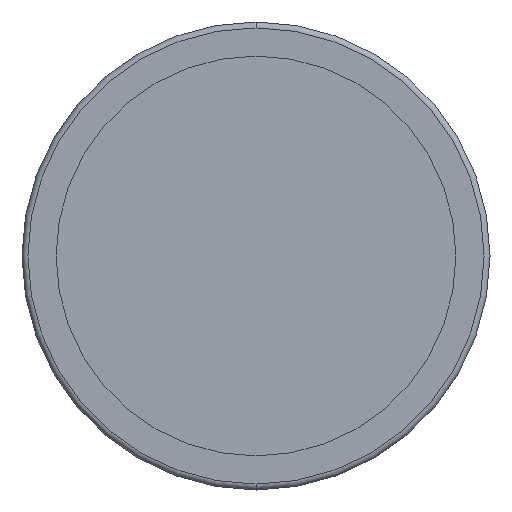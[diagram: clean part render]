
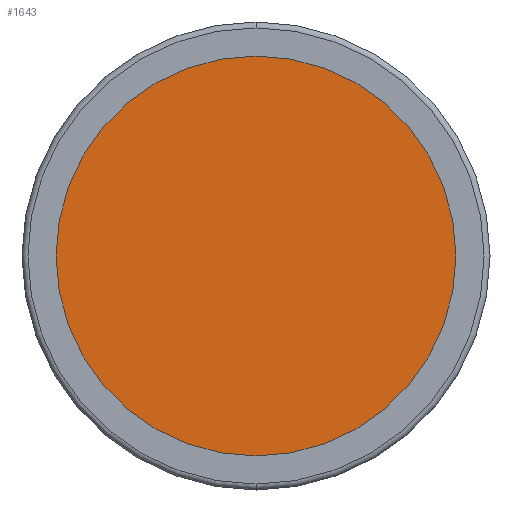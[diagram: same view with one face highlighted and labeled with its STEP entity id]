
A CAD part, front view. The second image highlights one B-rep face of the part: STEP entity #1643.
In plain terms, the highlighted planar face has unit normal (0, -1, 0).
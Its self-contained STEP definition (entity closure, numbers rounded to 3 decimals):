
#27 = AXIS2_PLACEMENT_3D ( 'NONE', #1534, #3198, #1954 ) ;
#200 = CARTESIAN_POINT ( 'NONE',  ( 0., -2., 0. ) ) ;
#290 = DIRECTION ( 'NONE',  ( 0., 0., -1. ) ) ;
#507 = PLANE ( 'NONE',  #538 ) ;
#538 = AXIS2_PLACEMENT_3D ( 'NONE', #743, #1491, #290 ) ;
#743 = CARTESIAN_POINT ( 'NONE',  ( -33.75, -2., 0. ) ) ;
#781 = CARTESIAN_POINT ( 'NONE',  ( 0., -2., 33.75 ) ) ;
#977 = VERTEX_POINT ( 'NONE', #1083 ) ;
#1076 = ORIENTED_EDGE ( 'NONE', *, *, #1590, .F. ) ;
#1083 = CARTESIAN_POINT ( 'NONE',  ( 0., -2., -33.75 ) ) ;
#1151 = DIRECTION ( 'NONE',  ( 0., 0., 1. ) ) ;
#1491 = DIRECTION ( 'NONE',  ( 0., -1., 0. ) ) ;
#1534 = CARTESIAN_POINT ( 'NONE',  ( 0., -2., 0. ) ) ;
#1590 = EDGE_CURVE ( 'NONE', #977, #1672, #2500, .T. ) ;
#1643 = ADVANCED_FACE ( 'NONE', ( #1718 ), #507, .T. ) ;
#1672 = VERTEX_POINT ( 'NONE', #781 ) ;
#1718 = FACE_OUTER_BOUND ( 'NONE', #2398, .T. ) ;
#1954 = DIRECTION ( 'NONE',  ( 0., 0., 1. ) ) ;
#2033 = CIRCLE ( 'NONE', #27, 33.75 ) ;
#2103 = EDGE_CURVE ( 'NONE', #1672, #977, #2033, .T. ) ;
#2398 = EDGE_LOOP ( 'NONE', ( #2502, #1076 ) ) ;
#2500 = CIRCLE ( 'NONE', #2924, 33.75 ) ;
#2502 = ORIENTED_EDGE ( 'NONE', *, *, #2103, .F. ) ;
#2661 = DIRECTION ( 'NONE',  ( 0., 1., 0. ) ) ;
#2924 = AXIS2_PLACEMENT_3D ( 'NONE', #200, #2661, #1151 ) ;
#3198 = DIRECTION ( 'NONE',  ( 0., 1., 0. ) ) ;
